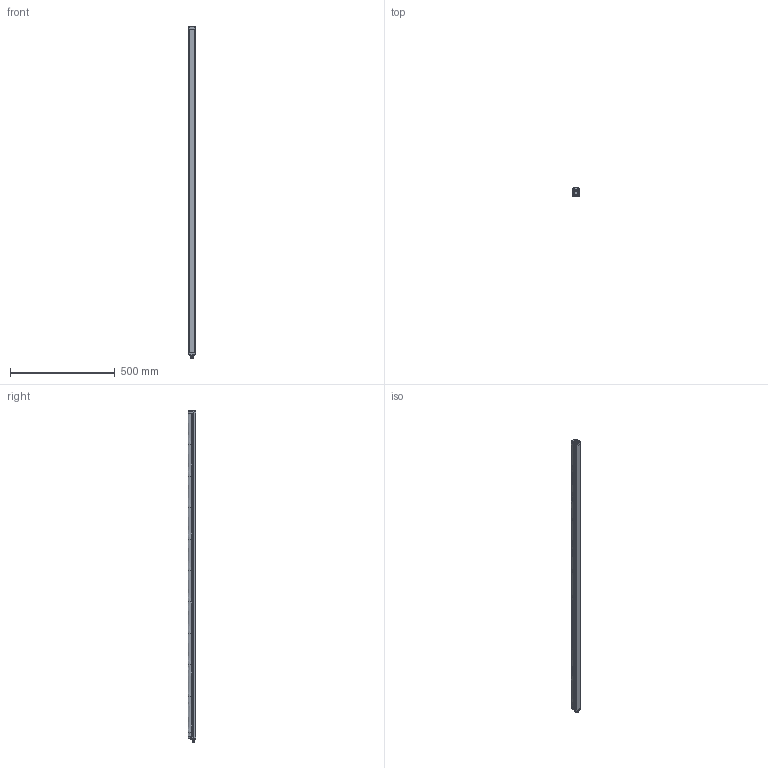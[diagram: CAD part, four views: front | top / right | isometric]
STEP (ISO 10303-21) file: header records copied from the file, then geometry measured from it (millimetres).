
FILE_DESCRIPTION((''),'2;1');
FILE_NAME('2008586','2011-03-28T',('rink'),(''),'PRO/ENGINEER BY PARAMETRIC TECHNOLOGY CORPORATION, 2009380','PRO/ENGINEER BY PARAMETRIC TECHNOLOGY CORPORATION, 2009380','');
FILE_SCHEMA(('AUTOMOTIVE_DESIGN_CC2 { 1 2 10303 214 -1 1 5 2 }'));
Products named in the file (1): 2008586
Bounding box: 32.3 x 37.07 x 1583.34 mm (x, y, z)
Volume: 1591142.4 mm3; surface area: 367903.8 mm2
Topology: 17 solids, 167 shells, 1811 faces, 4881 edges, 3052 vertices
Faces by surface type: cylinder 644, plane 406, torus 278, bspline 215, sphere 124, extrusion 102, cone 42
Entity records: 92236 total; most frequent: CARTESIAN_POINT 34141, DIRECTION 8703, ORIENTED_EDGE 8524, PRESENTATION_STYLE_ASSIGNMENT 4949, STYLED_ITEM 4944, CURVE_STYLE 4777, EDGE_CURVE 4772, AXIS2_PLACEMENT_3D 3544
